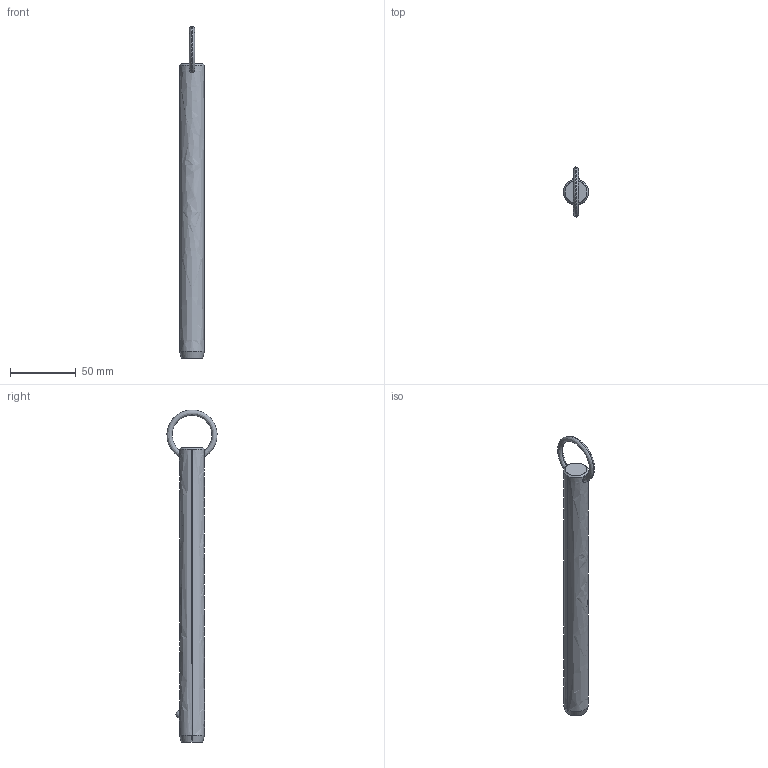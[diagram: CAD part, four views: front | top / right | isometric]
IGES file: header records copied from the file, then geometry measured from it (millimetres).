
Start section: SolidWorks IGES file using analytic representation for surfaces
Global section: file name: C:\Users\liam_\OneDrive\Documents\WORK\Work for WixRoyd\Job Files\J-00019 - Matt Davis CAD Checking\04. CAD Drawings\automotion20190605\P1250.2_v2\P1250.2_v2_20190729_IGES\P1250.075-750.igs; native system: SolidWorks 2017; preprocessor: SolidWorks 2017; author: liam_; date: 190730.000229; units: millimetre
Bounding box: 19 x 38.04 x 252.3 mm (x, y, z)
Surface area: 14885.5 mm2 (no closed solid volume)
Topology: 0 solids, 0 shells, 12 faces, 294 edges, 292 vertices
Faces by surface type: revolution 8, bspline 4
